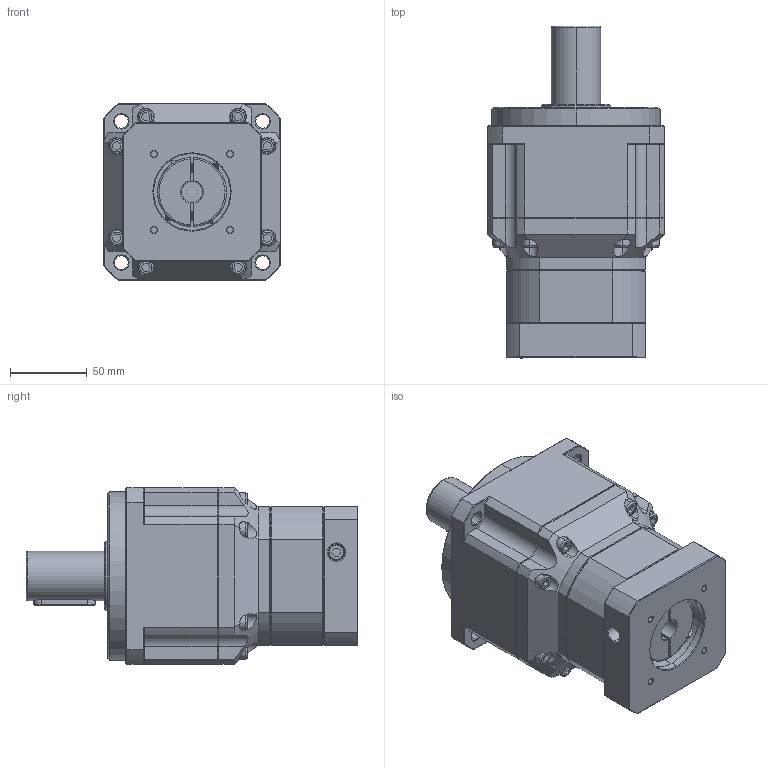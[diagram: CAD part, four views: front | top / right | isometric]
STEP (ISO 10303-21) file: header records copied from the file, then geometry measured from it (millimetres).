
FILE_DESCRIPTION (( 'STEP AP214' ), '1' );
FILE_NAME ('ZPB115-D32-L2-P1-14-50-70-M5.step', '2024-06-12T09:54:51', ( 'Windows 蚚誧' ), ( 'Organization' ), 'SwSTEP 2.0', 'SolidWorks 2016', '' );
FILE_SCHEMA (( 'AUTOMOTIVE_DESIGN' ));
Length unit declared in the file: millimetre
Products named in the file (1): ZPB115-D32-L2-P1-14-50-70-M5
Bounding box: 115 x 216 x 115 mm (x, y, z)
Surface area: 118955.3 mm2 (no closed solid volume)
Topology: 0 solids, 3 shells, 1756 faces, 4739 edges, 3087 vertices
Faces by surface type: plane 1019, bspline 399, cylinder 190, cone 148
Full cylindrical faces by diameter (mm): 10.2 x1
Entity records: 97455 total; most frequent: CARTESIAN_POINT 50014, ORIENTED_EDGE 9456, DIRECTION 6966, EDGE_CURVE 4737, LINE 3170, VECTOR 3170, VERTEX_POINT 3086, AXIS2_PLACEMENT_3D 1898
